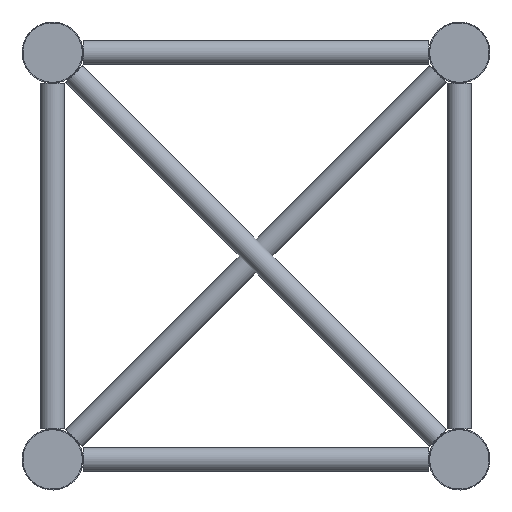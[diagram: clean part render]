
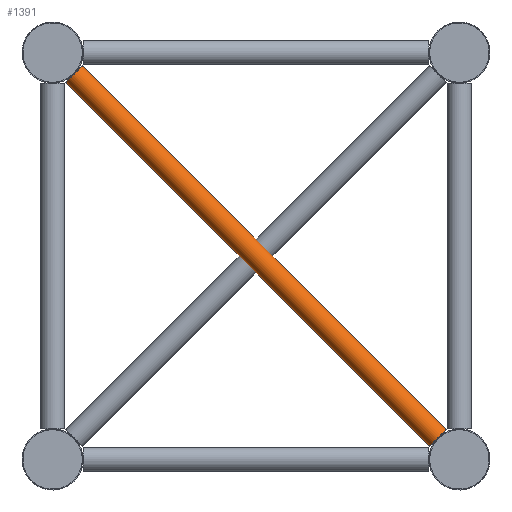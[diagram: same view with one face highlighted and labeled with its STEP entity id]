
A CAD part, left-side view. The second image highlights one B-rep face of the part: STEP entity #1391.
In plain terms, the highlighted cylindrical face has radius 10 mm (diameter 20 mm), a full revolution.
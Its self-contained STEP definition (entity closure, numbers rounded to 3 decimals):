
#121=FACE_BOUND('',#360,.T.);
#211=CYLINDRICAL_SURFACE('',#1508,10.);
#248=FACE_OUTER_BOUND('',#359,.T.);
#359=EDGE_LOOP('',(#883));
#360=EDGE_LOOP('',(#884));
#556=CIRCLE('',#1507,10.);
#557=CIRCLE('',#1509,10.);
#624=VERTEX_POINT('',#2118);
#625=VERTEX_POINT('',#2121);
#740=EDGE_CURVE('',#624,#624,#556,.T.);
#741=EDGE_CURVE('',#625,#625,#557,.T.);
#883=ORIENTED_EDGE('',*,*,#740,.T.);
#884=ORIENTED_EDGE('',*,*,#741,.T.);
#1391=ADVANCED_FACE('',(#248,#121),#211,.T.);
#1507=AXIS2_PLACEMENT_3D('',#2119,#1709,#1710);
#1508=AXIS2_PLACEMENT_3D('',#2120,#1711,#1712);
#1509=AXIS2_PLACEMENT_3D('',#2122,#1713,#1714);
#1709=DIRECTION('center_axis',(0.,0.707,
0.707));
#1710=DIRECTION('ref_axis',(0.,0.707,-0.707));
#1711=DIRECTION('center_axis',(0.,0.707,
0.707));
#1712=DIRECTION('ref_axis',(0.,0.707,-0.707));
#1713=DIRECTION('center_axis',(0.,-0.707,
-0.707));
#1714=DIRECTION('ref_axis',(0.,0.707,-0.707));
#2118=CARTESIAN_POINT('',(55.,10.967,-313.891));
#2119=CARTESIAN_POINT('Origin',(55.,18.038,-320.962));
#2120=CARTESIAN_POINT('Origin',(55.,169.5,-169.5));
#2121=CARTESIAN_POINT('',(55.,313.891,-10.967));
#2122=CARTESIAN_POINT('Origin',(55.,320.962,-18.038));
